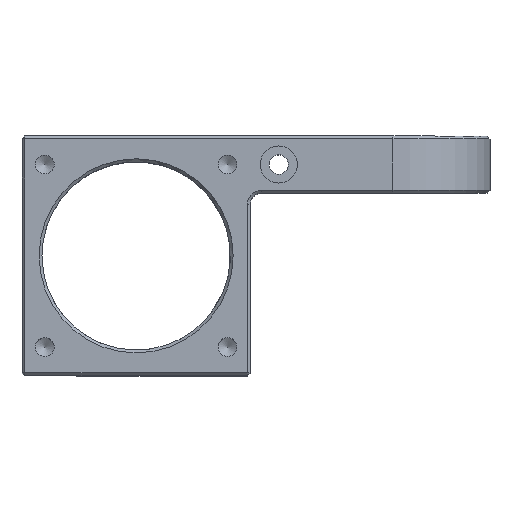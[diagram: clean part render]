
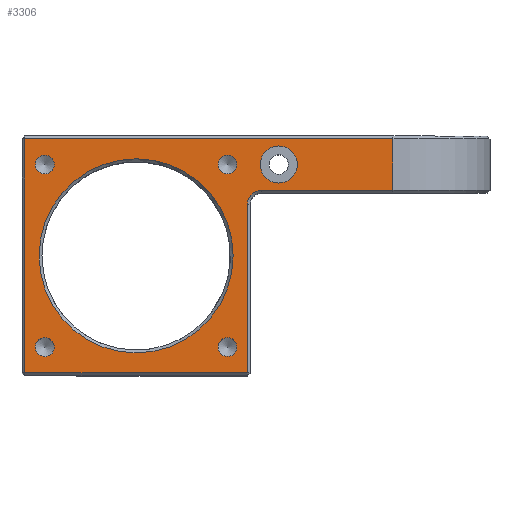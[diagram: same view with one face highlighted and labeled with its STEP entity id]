
A CAD part, top view. The second image highlights one B-rep face of the part: STEP entity #3306.
In plain terms, the highlighted planar face has unit normal (0, 0, 1).
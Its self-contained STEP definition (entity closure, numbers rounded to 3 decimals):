
#56 = DIRECTION ( 'NONE',  ( 0., -1., 0. ) ) ;
#69 = ORIENTED_EDGE ( 'NONE', *, *, #259, .T. ) ;
#84 = FACE_BOUND ( 'NONE', #2985, .T. ) ;
#92 = CARTESIAN_POINT ( 'NONE',  ( -33.983, 9.5, 17.141 ) ) ;
#143 = FACE_BOUND ( 'NONE', #1319, .T. ) ;
#165 = VECTOR ( 'NONE', #56, 1000. ) ;
#166 = AXIS2_PLACEMENT_3D ( 'NONE', #10242, #10300, #1051 ) ;
#228 = EDGE_CURVE ( 'NONE', #2693, #907, #1074, .T. ) ;
#259 = EDGE_CURVE ( 'NONE', #3693, #3656, #4690, .T. ) ;
#310 = DIRECTION ( 'NONE',  ( 1., 0., 0. ) ) ;
#323 = CARTESIAN_POINT ( 'NONE',  ( 5.516, -31.5, 17.141 ) ) ;
#480 = LINE ( 'NONE', #3172, #2761 ) ;
#553 = DIRECTION ( 'NONE',  ( 0., 0., -1. ) ) ;
#607 = CARTESIAN_POINT ( 'NONE',  ( 2.017, 5., 17.141 ) ) ;
#907 = VERTEX_POINT ( 'NONE', #9019 ) ;
#1051 = DIRECTION ( 'NONE',  ( 1., 0., 0. ) ) ;
#1074 = LINE ( 'NONE', #3949, #6263 ) ;
#1160 = VERTEX_POINT ( 'NONE', #5125 ) ;
#1171 = EDGE_CURVE ( 'NONE', #9801, #6777, #6516, .T. ) ;
#1291 = CARTESIAN_POINT ( 'NONE',  ( 5.516, -2., 17.141 ) ) ;
#1319 = EDGE_LOOP ( 'NONE', ( #4502 ) ) ;
#1683 = EDGE_CURVE ( 'NONE', #3656, #9801, #2212, .T. ) ;
#1698 = VERTEX_POINT ( 'NONE', #1291 ) ;
#1774 = EDGE_CURVE ( 'NONE', #4203, #4203, #7251, .T. ) ;
#2047 = FACE_BOUND ( 'NONE', #3267, .T. ) ;
#2181 = ORIENTED_EDGE ( 'NONE', *, *, #8922, .T. ) ;
#2212 = LINE ( 'NONE', #3127, #8020 ) ;
#2508 = EDGE_CURVE ( 'NONE', #7940, #7940, #3923, .T. ) ;
#2623 = EDGE_CURVE ( 'NONE', #6777, #1698, #480, .T. ) ;
#2693 = VERTEX_POINT ( 'NONE', #4208 ) ;
#2742 = VECTOR ( 'NONE', #9456, 1000. ) ;
#2751 = EDGE_LOOP ( 'NONE', ( #3219 ) ) ;
#2761 = VECTOR ( 'NONE', #9781, 1000. ) ;
#2916 = DIRECTION ( 'NONE',  ( 1., 0., 0. ) ) ;
#2938 = LINE ( 'NONE', #8452, #165 ) ;
#2985 = EDGE_LOOP ( 'NONE', ( #10550 ) ) ;
#3110 = AXIS2_PLACEMENT_3D ( 'NONE', #8215, #553, #3489 ) ;
#3127 = CARTESIAN_POINT ( 'NONE',  ( -33.483, 10., 17.141 ) ) ;
#3172 = CARTESIAN_POINT ( 'NONE',  ( 5.516, 10., 17.141 ) ) ;
#3219 = ORIENTED_EDGE ( 'NONE', *, *, #3274, .F. ) ;
#3267 = EDGE_LOOP ( 'NONE', ( #5209 ) ) ;
#3274 = EDGE_CURVE ( 'NONE', #11491, #11491, #11680, .T. ) ;
#3306 = ADVANCED_FACE ( 'NONE', ( #11173, #6706, #84, #2047, #143, #7555, #9326 ), #6578, .F. ) ;
#3332 = AXIS2_PLACEMENT_3D ( 'NONE', #607, #6117, #10880 ) ;
#3489 = DIRECTION ( 'NONE',  ( -1., 0., 0. ) ) ;
#3656 = VERTEX_POINT ( 'NONE', #8651 ) ;
#3693 = VERTEX_POINT ( 'NONE', #5336 ) ;
#3703 = DIRECTION ( 'NONE',  ( 0., 0., -1. ) ) ;
#3923 = CIRCLE ( 'NONE', #3332, 1.65 ) ;
#3949 = CARTESIAN_POINT ( 'NONE',  ( 31.017, 0.5, 17.141 ) ) ;
#3966 = CARTESIAN_POINT ( 'NONE',  ( 14.25, 5., 17.141 ) ) ;
#4203 = VERTEX_POINT ( 'NONE', #6853 ) ;
#4208 = CARTESIAN_POINT ( 'NONE',  ( 8.016, 0.5, 17.141 ) ) ;
#4231 = DIRECTION ( 'NONE',  ( -1., 0., 0. ) ) ;
#4280 = DIRECTION ( 'NONE',  ( 1., 0., 0. ) ) ;
#4292 = EDGE_CURVE ( 'NONE', #3693, #907, #2938, .T. ) ;
#4310 = AXIS2_PLACEMENT_3D ( 'NONE', #4963, #10601, #310 ) ;
#4502 = ORIENTED_EDGE ( 'NONE', *, *, #11780, .F. ) ;
#4663 = ORIENTED_EDGE ( 'NONE', *, *, #7095, .F. ) ;
#4690 = LINE ( 'NONE', #92, #2742 ) ;
#4695 = VECTOR ( 'NONE', #6701, 1000. ) ;
#4855 = CARTESIAN_POINT ( 'NONE',  ( 11., 5., 17.141 ) ) ;
#4963 = CARTESIAN_POINT ( 'NONE',  ( 2.017, -27., 17.141 ) ) ;
#5082 = ORIENTED_EDGE ( 'NONE', *, *, #4292, .F. ) ;
#5094 = CARTESIAN_POINT ( 'NONE',  ( -13.983, -11., 17.141 ) ) ;
#5125 = CARTESIAN_POINT ( 'NONE',  ( -30.983, -11., 17.141 ) ) ;
#5209 = ORIENTED_EDGE ( 'NONE', *, *, #1774, .F. ) ;
#5252 = AXIS2_PLACEMENT_3D ( 'NONE', #5094, #6016, #4231 ) ;
#5336 = CARTESIAN_POINT ( 'NONE',  ( 31.017, 9.5, 17.141 ) ) ;
#5978 = ORIENTED_EDGE ( 'NONE', *, *, #1683, .T. ) ;
#5988 = VERTEX_POINT ( 'NONE', #9531 ) ;
#6016 = DIRECTION ( 'NONE',  ( 0., 0., -1. ) ) ;
#6052 = CARTESIAN_POINT ( 'NONE',  ( -28.333, -27., 17.141 ) ) ;
#6117 = DIRECTION ( 'NONE',  ( 0., 0., 1. ) ) ;
#6237 = CARTESIAN_POINT ( 'NONE',  ( -33.483, -31.5, 17.141 ) ) ;
#6263 = VECTOR ( 'NONE', #2916, 1000. ) ;
#6328 = ORIENTED_EDGE ( 'NONE', *, *, #228, .T. ) ;
#6516 = LINE ( 'NONE', #7495, #4695 ) ;
#6577 = ORIENTED_EDGE ( 'NONE', *, *, #6708, .T. ) ;
#6578 = PLANE ( 'NONE',  #11294 ) ;
#6691 = EDGE_LOOP ( 'NONE', ( #6577 ) ) ;
#6701 = DIRECTION ( 'NONE',  ( 1., 0., 0. ) ) ;
#6706 = FACE_BOUND ( 'NONE', #7964, .T. ) ;
#6708 = EDGE_CURVE ( 'NONE', #1160, #1160, #7805, .T. ) ;
#6777 = VERTEX_POINT ( 'NONE', #323 ) ;
#6853 = CARTESIAN_POINT ( 'NONE',  ( 3.667, -27., 17.141 ) ) ;
#6964 = VERTEX_POINT ( 'NONE', #6052 ) ;
#6983 = AXIS2_PLACEMENT_3D ( 'NONE', #8271, #9052, #4280 ) ;
#7095 = EDGE_CURVE ( 'NONE', #5988, #5988, #9356, .T. ) ;
#7182 = ORIENTED_EDGE ( 'NONE', *, *, #1171, .T. ) ;
#7251 = CIRCLE ( 'NONE', #4310, 1.65 ) ;
#7495 = CARTESIAN_POINT ( 'NONE',  ( 6.016, -31.5, 17.141 ) ) ;
#7555 = FACE_BOUND ( 'NONE', #2751, .T. ) ;
#7805 = CIRCLE ( 'NONE', #5252, 17. ) ;
#7940 = VERTEX_POINT ( 'NONE', #11611 ) ;
#7964 = EDGE_LOOP ( 'NONE', ( #4663 ) ) ;
#8020 = VECTOR ( 'NONE', #8694, 1000. ) ;
#8215 = CARTESIAN_POINT ( 'NONE',  ( 8.016, -2., 17.141 ) ) ;
#8271 = CARTESIAN_POINT ( 'NONE',  ( -29.983, -27., 17.141 ) ) ;
#8361 = DIRECTION ( 'NONE',  ( 0., 0., 1. ) ) ;
#8403 = CIRCLE ( 'NONE', #3110, 2.5 ) ;
#8452 = CARTESIAN_POINT ( 'NONE',  ( 31.017, 10., 17.141 ) ) ;
#8651 = CARTESIAN_POINT ( 'NONE',  ( -33.483, 9.5, 17.141 ) ) ;
#8694 = DIRECTION ( 'NONE',  ( 0., -1., 0. ) ) ;
#8922 = EDGE_CURVE ( 'NONE', #1698, #2693, #8403, .T. ) ;
#8930 = CIRCLE ( 'NONE', #6983, 1.65 ) ;
#9019 = CARTESIAN_POINT ( 'NONE',  ( 31.017, 0.5, 17.141 ) ) ;
#9052 = DIRECTION ( 'NONE',  ( 0., 0., 1. ) ) ;
#9326 = FACE_OUTER_BOUND ( 'NONE', #11508, .T. ) ;
#9356 = CIRCLE ( 'NONE', #166, 1.65 ) ;
#9456 = DIRECTION ( 'NONE',  ( -1., 0., 0. ) ) ;
#9531 = CARTESIAN_POINT ( 'NONE',  ( -28.333, 5., 17.141 ) ) ;
#9721 = AXIS2_PLACEMENT_3D ( 'NONE', #4855, #8361, #10318 ) ;
#9781 = DIRECTION ( 'NONE',  ( 0., 1., 0. ) ) ;
#9801 = VERTEX_POINT ( 'NONE', #6237 ) ;
#10201 = CARTESIAN_POINT ( 'NONE',  ( 31.017, 10., 17.141 ) ) ;
#10242 = CARTESIAN_POINT ( 'NONE',  ( -29.983, 5., 17.141 ) ) ;
#10300 = DIRECTION ( 'NONE',  ( 0., 0., 1. ) ) ;
#10318 = DIRECTION ( 'NONE',  ( 1., 0., 0. ) ) ;
#10550 = ORIENTED_EDGE ( 'NONE', *, *, #2508, .F. ) ;
#10601 = DIRECTION ( 'NONE',  ( 0., 0., 1. ) ) ;
#10880 = DIRECTION ( 'NONE',  ( 1., 0., 0. ) ) ;
#11173 = FACE_BOUND ( 'NONE', #6691, .T. ) ;
#11227 = DIRECTION ( 'NONE',  ( -1., 0., 0. ) ) ;
#11294 = AXIS2_PLACEMENT_3D ( 'NONE', #10201, #3703, #11227 ) ;
#11491 = VERTEX_POINT ( 'NONE', #3966 ) ;
#11508 = EDGE_LOOP ( 'NONE', ( #2181, #6328, #5082, #69, #5978, #7182, #11597 ) ) ;
#11597 = ORIENTED_EDGE ( 'NONE', *, *, #2623, .T. ) ;
#11611 = CARTESIAN_POINT ( 'NONE',  ( 3.667, 5., 17.141 ) ) ;
#11680 = CIRCLE ( 'NONE', #9721, 3.25 ) ;
#11780 = EDGE_CURVE ( 'NONE', #6964, #6964, #8930, .T. ) ;
